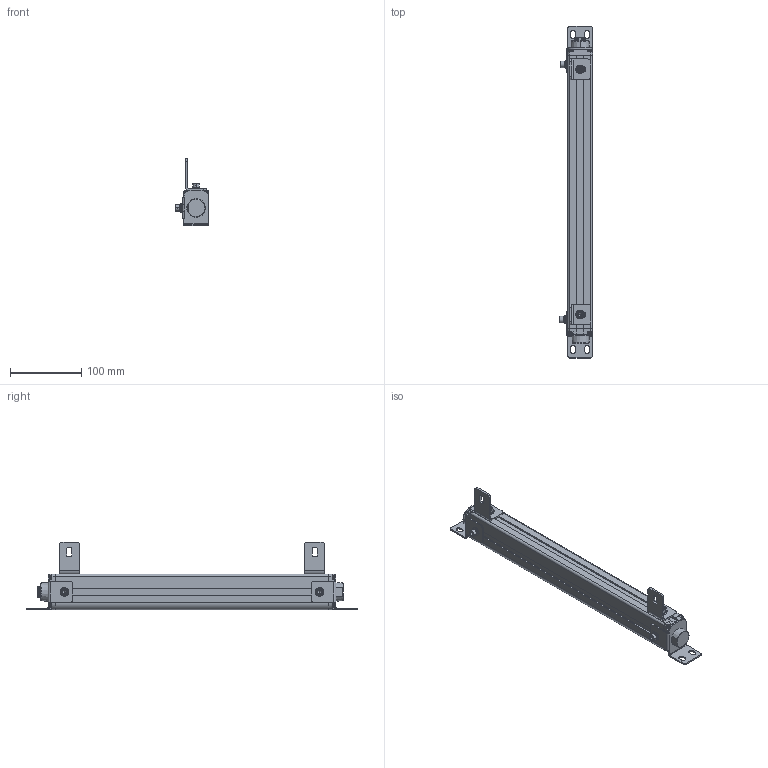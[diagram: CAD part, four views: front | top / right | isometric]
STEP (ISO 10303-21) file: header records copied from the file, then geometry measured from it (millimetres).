
FILE_DESCRIPTION((''),'2;1');
FILE_NAME('ESN--000_ASM','2021-08-10T21:14:38',('18720616900'),(''),'CREO PARAMETRIC BY PTC INC, 2019010','CREO PARAMETRIC BY PTC INC, 2019010','');
FILE_SCHEMA(('CONFIG_CONTROL_DESIGN'));
Length unit declared in the file: millimetre
Products named in the file (22): 00; 000; _0001; 4000; 4--0001; ESN_40001_ASM; L10001; M6-8--0001; M6-1--00; M6-1-00; M6-80001_ASM; L1--0001_ASM; _0002; 0005; ST-3-120001; H1--000; H1--0001_ASM; H1--0003_ASM; ESN--000_ASM
Assembly tree (34 placements, depth 4):
  ESN--000_ASM
    00
    000
    _0001
    000
    ESN_40001_ASM
      4000
      4--0001  x4
    L1--0001_ASM  x2
      L10001
      M6-80001_ASM
        M6-8--0001
        M6-1--00
        M6-1-00
        00
    _0002
    0005
    ST-3-120001  x8
    H1--0001_ASM
      H1--000
      M6-80001_ASM
        M6-8--0001
        M6-1--00
        M6-1-00
        00
    H1--0003_ASM
      H1--000
      M6-80001_ASM
        M6-8--0001
        M6-1--00
        M6-1-00
        00
Bounding box: 46.5 x 467 x 94.95 mm (x, y, z)
Volume: 638010.9 mm3; surface area: 157294.5 mm2
Topology: 39 solids, 39 shells, 1727 faces, 4555 edges, 2925 vertices
Faces by surface type: plane 541, cylinder 404, bspline 362, cone 291, torus 105, sphere 24
Entity records: 45714 total; most frequent: CARTESIAN_POINT 24222, ORIENTED_EDGE 4766, DIRECTION 3842, EDGE_CURVE 2383, VERTEX_POINT 1546, AXIS2_PLACEMENT_3D 1400, VECTOR 1042, LINE 1042
